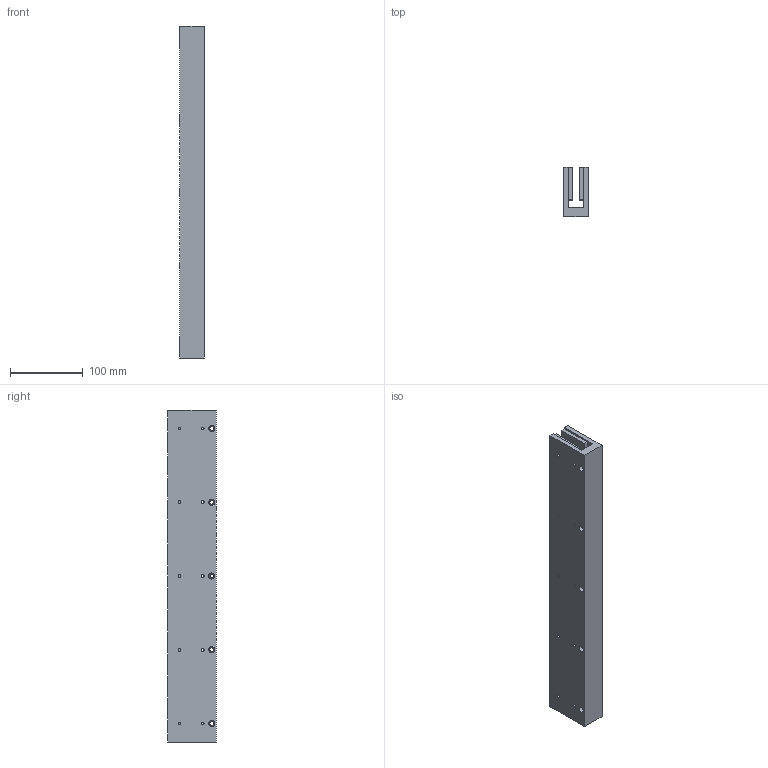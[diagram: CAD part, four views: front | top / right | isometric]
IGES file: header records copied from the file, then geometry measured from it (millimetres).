
Global section: file name: No Iges File Name specified; native system: Autodesk Inventor 2009; preprocessor: AutoDesk Inventor Iges Exporter R2009; author: je17857; date: 20091116.111457; units: inch
Bounding box: 34.29 x 67.31 x 457.2 mm (x, y, z)
Volume: 682837.5 mm3; surface area: 173903.3 mm2
Topology: 1 solids, 1 shells, 250 faces, 594 edges, 396 vertices
Faces by surface type: plane 170, bspline 80
